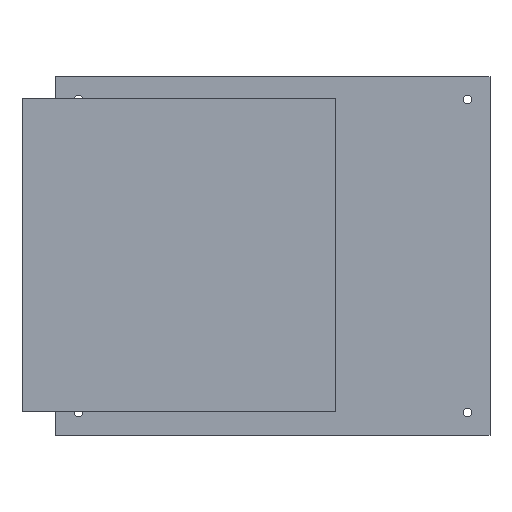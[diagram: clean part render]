
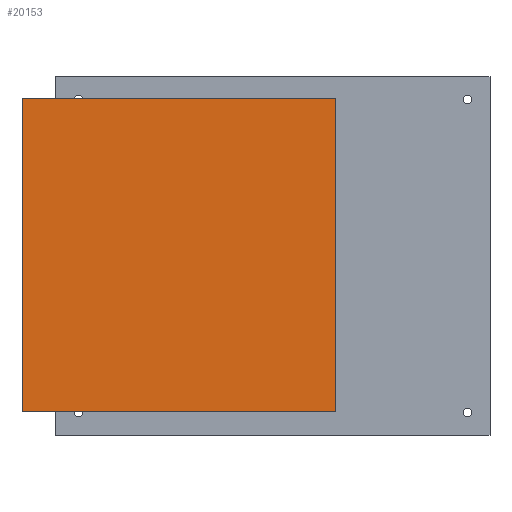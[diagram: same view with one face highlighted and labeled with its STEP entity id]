
A CAD part, top view. The second image highlights one B-rep face of the part: STEP entity #20153.
In plain terms, the highlighted planar face has unit normal (0, 0, 1).
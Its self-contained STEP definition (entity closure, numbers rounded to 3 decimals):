
#19964 = VERTEX_POINT('',#19965);
#19965 = CARTESIAN_POINT('',(-133.,-83.,402.7));
#19972 = PLANE('',#19973);
#19973 = AXIS2_PLACEMENT_3D('',#19974,#19975,#19976);
#19974 = CARTESIAN_POINT('',(-133.,-83.,397.7));
#19975 = DIRECTION('',(1.,0.,0.));
#19976 = DIRECTION('',(0.,0.,1.));
#19984 = PLANE('',#19985);
#19985 = AXIS2_PLACEMENT_3D('',#19986,#19987,#19988);
#19986 = CARTESIAN_POINT('',(-133.,-83.,397.7));
#19987 = DIRECTION('',(0.,1.,0.));
#19988 = DIRECTION('',(0.,-0.,1.));
#20025 = VERTEX_POINT('',#20026);
#20026 = CARTESIAN_POINT('',(-133.,83.,402.7));
#20040 = PLANE('',#20041);
#20041 = AXIS2_PLACEMENT_3D('',#20042,#20043,#20044);
#20042 = CARTESIAN_POINT('',(-133.,83.,397.7));
#20043 = DIRECTION('',(0.,1.,0.));
#20044 = DIRECTION('',(0.,-0.,1.));
#20052 = EDGE_CURVE('',#19964,#20025,#20053,.T.);
#20053 = SURFACE_CURVE('',#20054,(#20058,#20065),.PCURVE_S1.);
#20054 = LINE('',#20055,#20056);
#20055 = CARTESIAN_POINT('',(-133.,-83.,402.7));
#20056 = VECTOR('',#20057,1.);
#20057 = DIRECTION('',(0.,1.,0.));
#20058 = PCURVE('',#19972,#20059);
#20059 = DEFINITIONAL_REPRESENTATION('',(#20060),#20064);
#20060 = LINE('',#20061,#20062);
#20061 = CARTESIAN_POINT('',(5.,0.));
#20062 = VECTOR('',#20063,1.);
#20063 = DIRECTION('',(0.,-1.));
#20064 = ( GEOMETRIC_REPRESENTATION_CONTEXT(2) 
PARAMETRIC_REPRESENTATION_CONTEXT() REPRESENTATION_CONTEXT('2D SPACE',''
  ) );
#20065 = PCURVE('',#20066,#20071);
#20066 = PLANE('',#20067);
#20067 = AXIS2_PLACEMENT_3D('',#20068,#20069,#20070);
#20068 = CARTESIAN_POINT('',(-133.,-83.,402.7));
#20069 = DIRECTION('',(0.,0.,1.));
#20070 = DIRECTION('',(1.,0.,-0.));
#20071 = DEFINITIONAL_REPRESENTATION('',(#20072),#20076);
#20072 = LINE('',#20073,#20074);
#20073 = CARTESIAN_POINT('',(0.,0.));
#20074 = VECTOR('',#20075,1.);
#20075 = DIRECTION('',(0.,1.));
#20076 = ( GEOMETRIC_REPRESENTATION_CONTEXT(2) 
PARAMETRIC_REPRESENTATION_CONTEXT() REPRESENTATION_CONTEXT('2D SPACE',''
  ) );
#20105 = EDGE_CURVE('',#19964,#20106,#20108,.T.);
#20106 = VERTEX_POINT('',#20107);
#20107 = CARTESIAN_POINT('',(33.,-83.,402.7));
#20108 = SURFACE_CURVE('',#20109,(#20113,#20120),.PCURVE_S1.);
#20109 = LINE('',#20110,#20111);
#20110 = CARTESIAN_POINT('',(-133.,-83.,402.7));
#20111 = VECTOR('',#20112,1.);
#20112 = DIRECTION('',(1.,0.,0.));
#20113 = PCURVE('',#19984,#20114);
#20114 = DEFINITIONAL_REPRESENTATION('',(#20115),#20119);
#20115 = LINE('',#20116,#20117);
#20116 = CARTESIAN_POINT('',(5.,0.));
#20117 = VECTOR('',#20118,1.);
#20118 = DIRECTION('',(0.,1.));
#20119 = ( GEOMETRIC_REPRESENTATION_CONTEXT(2) 
PARAMETRIC_REPRESENTATION_CONTEXT() REPRESENTATION_CONTEXT('2D SPACE',''
  ) );
#20120 = PCURVE('',#20066,#20121);
#20121 = DEFINITIONAL_REPRESENTATION('',(#20122),#20126);
#20122 = LINE('',#20123,#20124);
#20123 = CARTESIAN_POINT('',(0.,0.));
#20124 = VECTOR('',#20125,1.);
#20125 = DIRECTION('',(1.,0.));
#20126 = ( GEOMETRIC_REPRESENTATION_CONTEXT(2) 
PARAMETRIC_REPRESENTATION_CONTEXT() REPRESENTATION_CONTEXT('2D SPACE',''
  ) );
#20142 = PLANE('',#20143);
#20143 = AXIS2_PLACEMENT_3D('',#20144,#20145,#20146);
#20144 = CARTESIAN_POINT('',(33.,-83.,397.7));
#20145 = DIRECTION('',(1.,0.,0.));
#20146 = DIRECTION('',(0.,0.,1.));
#20153 = ADVANCED_FACE('',(#20154),#20066,.T.);
#20154 = FACE_BOUND('',#20155,.T.);
#20155 = EDGE_LOOP('',(#20156,#20157,#20158,#20181));
#20156 = ORIENTED_EDGE('',*,*,#20052,.F.);
#20157 = ORIENTED_EDGE('',*,*,#20105,.T.);
#20158 = ORIENTED_EDGE('',*,*,#20159,.T.);
#20159 = EDGE_CURVE('',#20106,#20160,#20162,.T.);
#20160 = VERTEX_POINT('',#20161);
#20161 = CARTESIAN_POINT('',(33.,83.,402.7));
#20162 = SURFACE_CURVE('',#20163,(#20167,#20174),.PCURVE_S1.);
#20163 = LINE('',#20164,#20165);
#20164 = CARTESIAN_POINT('',(33.,-83.,402.7));
#20165 = VECTOR('',#20166,1.);
#20166 = DIRECTION('',(0.,1.,0.));
#20167 = PCURVE('',#20066,#20168);
#20168 = DEFINITIONAL_REPRESENTATION('',(#20169),#20173);
#20169 = LINE('',#20170,#20171);
#20170 = CARTESIAN_POINT('',(166.,0.));
#20171 = VECTOR('',#20172,1.);
#20172 = DIRECTION('',(0.,1.));
#20173 = ( GEOMETRIC_REPRESENTATION_CONTEXT(2) 
PARAMETRIC_REPRESENTATION_CONTEXT() REPRESENTATION_CONTEXT('2D SPACE',''
  ) );
#20174 = PCURVE('',#20142,#20175);
#20175 = DEFINITIONAL_REPRESENTATION('',(#20176),#20180);
#20176 = LINE('',#20177,#20178);
#20177 = CARTESIAN_POINT('',(5.,0.));
#20178 = VECTOR('',#20179,1.);
#20179 = DIRECTION('',(0.,-1.));
#20180 = ( GEOMETRIC_REPRESENTATION_CONTEXT(2) 
PARAMETRIC_REPRESENTATION_CONTEXT() REPRESENTATION_CONTEXT('2D SPACE',''
  ) );
#20181 = ORIENTED_EDGE('',*,*,#20182,.F.);
#20182 = EDGE_CURVE('',#20025,#20160,#20183,.T.);
#20183 = SURFACE_CURVE('',#20184,(#20188,#20195),.PCURVE_S1.);
#20184 = LINE('',#20185,#20186);
#20185 = CARTESIAN_POINT('',(-133.,83.,402.7));
#20186 = VECTOR('',#20187,1.);
#20187 = DIRECTION('',(1.,0.,0.));
#20188 = PCURVE('',#20066,#20189);
#20189 = DEFINITIONAL_REPRESENTATION('',(#20190),#20194);
#20190 = LINE('',#20191,#20192);
#20191 = CARTESIAN_POINT('',(0.,166.));
#20192 = VECTOR('',#20193,1.);
#20193 = DIRECTION('',(1.,0.));
#20194 = ( GEOMETRIC_REPRESENTATION_CONTEXT(2) 
PARAMETRIC_REPRESENTATION_CONTEXT() REPRESENTATION_CONTEXT('2D SPACE',''
  ) );
#20195 = PCURVE('',#20040,#20196);
#20196 = DEFINITIONAL_REPRESENTATION('',(#20197),#20201);
#20197 = LINE('',#20198,#20199);
#20198 = CARTESIAN_POINT('',(5.,0.));
#20199 = VECTOR('',#20200,1.);
#20200 = DIRECTION('',(0.,1.));
#20201 = ( GEOMETRIC_REPRESENTATION_CONTEXT(2) 
PARAMETRIC_REPRESENTATION_CONTEXT() REPRESENTATION_CONTEXT('2D SPACE',''
  ) );
